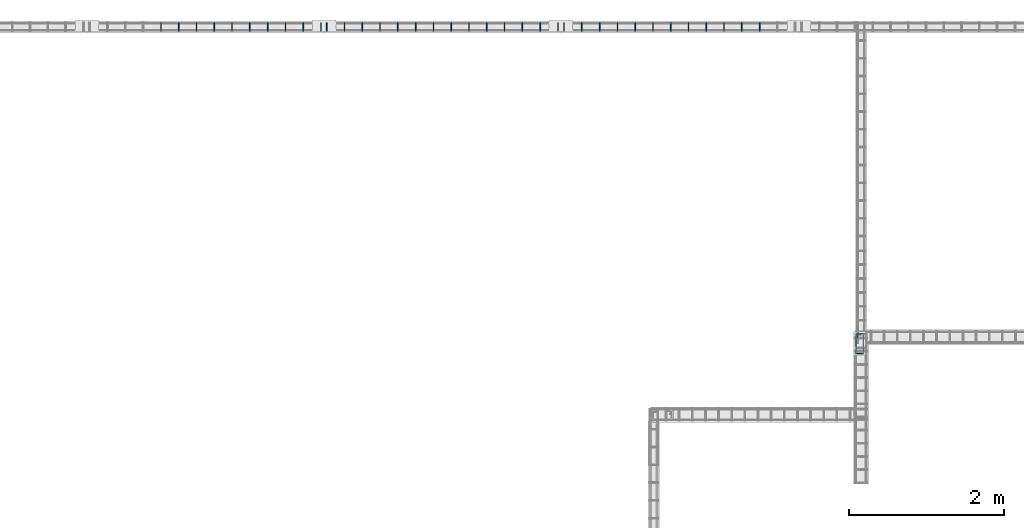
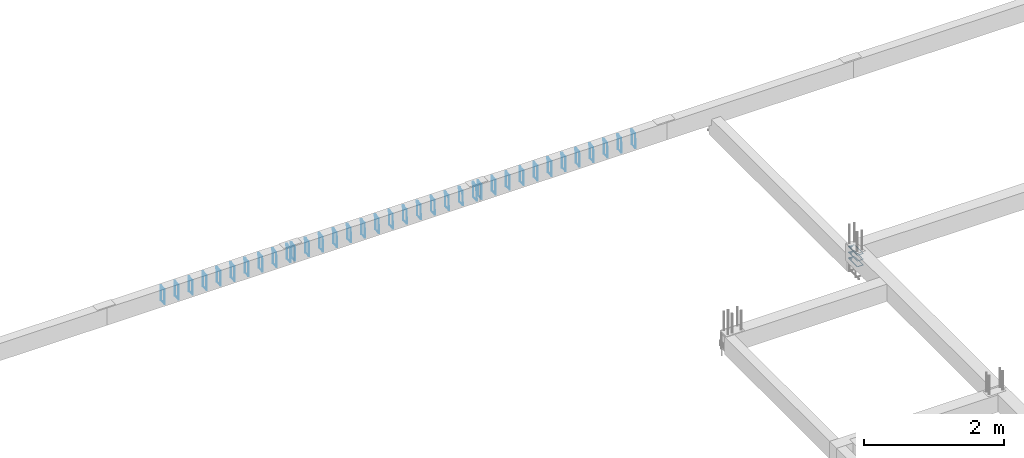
# One storey, part 137 of 150: 39 reinforcing bars.
"""IFC4 building model written with IfcOpenShell, lengths in centimetres."""

import ifcopenshell
import ifcopenshell.guid

model = None  # the IFC model being written
_history = None  # IfcOwnerHistory: only IFC2X3 demands one
_inside = {}  # id of a spatial element -> (the spatial element, [elements in it])
_under = {}  # id of a project, library or spatial element -> (it, [spatial elements below it])
_declared = {}  # id of a project -> (the project, [libraries it declares])
_typed = {}  # id of a type object -> (the type object, [elements of that type])
_made_of = {}  # id of a material, layer set ... -> (it, [elements and type objects made of it])


def new_model(schema):
    """Start an empty IFC model of exactly this schema.

    Asked for "IFC4X3", IfcOpenShell would pick the latest addendum, in which some entities
    have other attributes; the version numbers below select the first issue.
    IFC2X3 requires an IfcOwnerHistory on every rooted entity: one is made here for all.
    """
    global model, _history
    if schema == "IFC4X3":
        model = ifcopenshell.file(schema_version=(4, 3, 0, 0))
    else:
        model = ifcopenshell.file(schema=schema)
    _inside.clear()
    _under.clear()
    _declared.clear()
    _typed.clear()
    _made_of.clear()
    _history = None
    if model.schema == "IFC2X3":
        org = make("IfcOrganization", Name="unknown")
        user = make(
            "IfcPersonAndOrganization",
            ThePerson=make("IfcPerson", FamilyName="unknown"),
            TheOrganization=org,
        )
        app = make(
            "IfcApplication",
            ApplicationDeveloper=org,
            Version="unknown",
            ApplicationFullName="unknown",
            ApplicationIdentifier="unknown",
        )
        _history = make(
            "IfcOwnerHistory",
            OwningUser=user,
            OwningApplication=app,
            ChangeAction="ADDED",
            CreationDate=0,
        )
    return model


def make(cls, **values):
    """One entity of the class cls with the attributes given. An attribute that is None is left unset."""
    return model.create_entity(
        cls, **{name: value for name, value in values.items() if value is not None}
    )


def entity(cls, *values):
    """Any entity or typed value of the class cls, its attributes in the order of the schema. None: left unset."""
    e = model.create_entity(cls)
    for i, value in enumerate(values):
        if value is not None:
            e[i] = value
    return e


def rooted(cls, **values):
    """An entity with a GlobalId (a new one), such as an element, a storey or a relation."""
    return make(cls, GlobalId=ifcopenshell.guid.new(), OwnerHistory=_history, **values)


def si_unit(unit_type, name, prefix=None):
    """IfcSIUnit, for example si_unit("LENGTHUNIT", "METRE", prefix="MILLI")."""
    return make("IfcSIUnit", UnitType=unit_type, Prefix=prefix, Name=name)


def derived_unit(unit_type, elements):
    """IfcDerivedUnit: a product of units, each with its exponent."""
    return make(
        "IfcDerivedUnit",
        Elements=[
            make("IfcDerivedUnitElement", Unit=unit, Exponent=power)
            for unit, power in elements
        ],
        UnitType=unit_type,
    )


def assignment(units):
    """IfcUnitAssignment: the units of a project."""
    return None if units is None else make("IfcUnitAssignment", Units=units)


def point(xyz):
    """IfcCartesianPoint."""
    return None if xyz is None else make("IfcCartesianPoint", Coordinates=xyz)


def direction(xyz):
    """IfcDirection."""
    return None if xyz is None else make("IfcDirection", DirectionRatios=xyz)


def frame(location, z_axis=None, x_axis=None):
    """IfcAxis2Placement3D, a coordinate frame: its origin and axes. An axis left out is left unset."""
    return make(
        "IfcAxis2Placement3D",
        Location=point(location),
        Axis=direction(z_axis),
        RefDirection=direction(x_axis),
    )


def origin_with_axes():
    """The frame at (0, 0, 0) with the z axis (0, 0, 1) and the x axis (1, 0, 0) written out."""
    return frame((0.0, 0.0, 0.0), z_axis=(0.0, 0.0, 1.0), x_axis=(1.0, 0.0, 0.0))


def place(relative_to, where):
    """IfcLocalPlacement: puts the frame where relative to a parent placement (None: the world)."""
    return make(
        "IfcLocalPlacement", PlacementRelTo=relative_to, RelativePlacement=where
    )


def context(
    kind, dimensions, precision=None, world=None, true_north=None, identifier=None
):
    """IfcGeometricRepresentationContext, for example the 3D "Model" context."""
    return make(
        "IfcGeometricRepresentationContext",
        ContextIdentifier=identifier,
        ContextType=kind,
        CoordinateSpaceDimension=dimensions,
        Precision=precision,
        WorldCoordinateSystem=world,
        TrueNorth=true_north,
    )


def project(units=None, contexts=None):
    """IfcProject with its units and contexts."""
    return rooted(
        "IfcProject",
        Name="project",
        RepresentationContexts=contexts,
        UnitsInContext=assignment(units),
    )


def spatial(cls, under=None, at=None, **own):
    """A site, building, storey or space (cls), placed at a placement, below another one or the project."""
    s = rooted(cls, ObjectPlacement=at, **own)
    if under is not None:
        _under.setdefault(under.id(), (under, []))[1].append(s)
    return s


def shape(context_of_items, identifier, shape_type, items):
    """IfcShapeRepresentation: the items that make up one representation, for example the "Body"."""
    return make(
        "IfcShapeRepresentation",
        ContextOfItems=context_of_items,
        RepresentationIdentifier=identifier,
        RepresentationType=shape_type,
        Items=items,
    )


def source(mapping_origin, context_of_items, identifier, shape_type, items):
    """IfcRepresentationMap: a shape defined once, which mapped items show again and again."""
    return make(
        "IfcRepresentationMap",
        MappingOrigin=mapping_origin,
        MappedRepresentation=shape(context_of_items, identifier, shape_type, items),
    )


def transform(
    local_origin,
    x_axis=None,
    y_axis=None,
    z_axis=None,
    scale=None,
    scale2=None,
    scale3=None,
    uniform=True,
):
    """IfcCartesianTransformationOperator3D, or its non-uniform kind. x_axis, y_axis, z_axis: its Axis1, 2, 3."""
    if uniform:
        return make(
            "IfcCartesianTransformationOperator3D",
            Axis1=direction(x_axis),
            Axis2=direction(y_axis),
            LocalOrigin=point(local_origin),
            Scale=scale,
            Axis3=direction(z_axis),
        )
    return make(
        "IfcCartesianTransformationOperator3DnonUniform",
        Axis1=direction(x_axis),
        Axis2=direction(y_axis),
        LocalOrigin=point(local_origin),
        Scale=scale,
        Axis3=direction(z_axis),
        Scale2=scale2,
        Scale3=scale3,
    )


def mapped(mapping_source, mapping_target):
    """IfcMappedItem: shows the shape of a source again, moved by a transform."""
    return make(
        "IfcMappedItem", MappingSource=mapping_source, MappingTarget=mapping_target
    )


def made_of(thing, what):
    """Note that an element or type object is made of a material, layer set ...; save() writes the relation."""
    if what is not None:
        _made_of.setdefault(what.id(), (what, []))[1].append(thing)
    return thing


def element(
    cls,
    number,
    at=None,
    inside=None,
    cuts=None,
    type_object=None,
    material=None,
    context=None,
    identifier="Body",
    shape_type=None,
    held_by="IfcProductDefinitionShape",
    body=None,
    shapes=None,
    **own,
):
    """One element of the class cls, such as IfcWall. Its Tag is "e" and its number.

    at: its placement. inside: the storey or other place that contains it. cuts: it is an
    opening in that element (IfcRelVoidsElement). A single representation is given by context,
    identifier, shape_type and body (its items); several are given by shapes. held_by: the class
    of the entity that holds the representations. save() writes the other relations.
    """
    e = rooted(cls, Tag="e%d" % number, ObjectPlacement=at, **own)
    if body is not None:
        shapes = [shape(context, identifier, shape_type, body)]
    if shapes is not None:
        e.Representation = make(held_by, Representations=shapes)
    if inside is not None:
        _inside.setdefault(inside.id(), (inside, []))[1].append(e)
    if cuts is not None:
        rooted(
            "IfcRelVoidsElement", RelatingBuildingElement=cuts, RelatedOpeningElement=e
        )
    if type_object is not None:
        _typed.setdefault(type_object.id(), (type_object, []))[1].append(e)
    return made_of(e, material)


def aggregate(whole, parts):
    """IfcRelAggregates: a whole, such as a stair, and the parts it consists of."""
    return rooted("IfcRelAggregates", RelatingObject=whole, RelatedObjects=parts)


def save(model, path):
    """Write the relations noted so far, then the file.

    IfcRelAggregates (storeys below a building ...), IfcRelContainedInSpatialStructure (elements
    in a storey), IfcRelDefinesByType, IfcRelAssociatesMaterial and IfcRelDeclares: one each for
    every whole, place, type object, material and project.
    """
    for whole, parts in _under.values():
        aggregate(whole, parts)
    for where, things in _inside.values():
        rooted(
            "IfcRelContainedInSpatialStructure",
            RelatedElements=things,
            RelatingStructure=where,
        )
    for kind, things in _typed.values():
        rooted("IfcRelDefinesByType", RelatedObjects=things, RelatingType=kind)
    for what, things in _made_of.values():
        rooted("IfcRelAssociatesMaterial", RelatedObjects=things, RelatingMaterial=what)
    for by, libraries in _declared.values():
        rooted("IfcRelDeclares", RelatingContext=by, RelatedDefinitions=libraries)
    model.write(path)


model = new_model("IFC4")

# Units and contexts
model_context = context("Model", 3, precision=1e-05, world=origin_with_axes(), identifier="Body")
ifc_project = project(units=[si_unit("LENGTHUNIT", "METRE", prefix="CENTI"), si_unit("VOLUMEUNIT", "CUBIC_METRE"), si_unit("AREAUNIT", "SQUARE_METRE"), si_unit("POWERUNIT", "WATT"), si_unit("LUMINOUSFLUXUNIT", "LUMEN"), si_unit("ELECTRICCURRENTUNIT", "AMPERE"), si_unit("PRESSUREUNIT", "PASCAL", prefix="KILO"), si_unit("MASSUNIT", "GRAM", prefix="KILO"), si_unit("PLANEANGLEUNIT", "RADIAN"), derived_unit("VOLUMETRICFLOWRATEUNIT", [(si_unit("LENGTHUNIT", "METRE"), 3), (si_unit("TIMEUNIT", "SECOND"), -1)])], contexts=[model_context])

# Site, building, storey
site_placement = place(None, frame((-4000.0, 0.0, 0.0), z_axis=(0.0, 0.0, 1.0), x_axis=(1.0, 0.0, 0.0)))
site = spatial("IfcSite", under=ifc_project, at=site_placement, Name="PADRÃO")
building_placement = place(site_placement, frame((0.0, 0.0, -14.0)))
building = spatial("IfcBuilding", under=site, at=building_placement, Name="CRECHE PRÉ-ESCOLA TIPO 2")
placement = place(building_placement, origin_with_axes())
storey_placement = place(placement, frame((0.0, 0.0, 30.0), z_axis=(0.0, 0.0, 1.0), x_axis=(1.0, 0.0, 0.0)))
storey = spatial("IfcBuildingStorey", under=building, at=storey_placement, Name="VIGA BALDRAME", CompositionType="ELEMENT", Elevation=16.0)

# Reinforcing bars
shared_shape_1 = source(origin_with_axes(), model_context, "Body", "AdvancedSweptSolid", [
    entity("IfcSweptDiskSolid", entity("IfcCompositeCurve", [entity("IfcCompositeCurveSegment", "CONTINUOUS", True, entity("IfcPolyline", [entity("IfcCartesianPoint", [4.25, 21.75, 0.0]), entity("IfcCartesianPoint", [4.25, 27.75, 0.0])])), entity("IfcCompositeCurveSegment", "CONTINUOUS", True, entity("IfcPolyline", [entity("IfcCartesianPoint", [4.25, 27.75, 0.0]), entity("IfcCartesianPoint", [2.25, 27.75, 0.0])])), entity("IfcCompositeCurveSegment", "CONTINUOUS", True, entity("IfcPolyline", [entity("IfcCartesianPoint", [2.25, 27.75, 0.0]), entity("IfcCartesianPoint", [2.25, 2.25, 0.0])])), entity("IfcCompositeCurveSegment", "CONTINUOUS", True, entity("IfcPolyline", [entity("IfcCartesianPoint", [2.25, 2.25, 0.0]), entity("IfcCartesianPoint", [11.75, 2.25, 0.0])])), entity("IfcCompositeCurveSegment", "CONTINUOUS", True, entity("IfcPolyline", [entity("IfcCartesianPoint", [11.75, 2.25, 0.0]), entity("IfcCartesianPoint", [11.75, 27.75, -0.5])])), entity("IfcCompositeCurveSegment", "CONTINUOUS", True, entity("IfcPolyline", [entity("IfcCartesianPoint", [11.75, 27.75, -0.5]), entity("IfcCartesianPoint", [2.25, 27.75, -0.5])])), entity("IfcCompositeCurveSegment", "CONTINUOUS", True, entity("IfcPolyline", [entity("IfcCartesianPoint", [2.25, 27.75, -0.5]), entity("IfcCartesianPoint", [2.25, 25.75, -0.5])])), entity("IfcCompositeCurveSegment", "CONTINUOUS", True, entity("IfcPolyline", [entity("IfcCartesianPoint", [2.25, 25.75, -0.5]), entity("IfcCartesianPoint", [8.25, 25.75, -0.5])]))], False), 0.25),
])
for number, where, z_axis, x_axis, name in (
    (1, (2515.5, 4062.02, -15.0), (0.0, 0.0, 1.0), (1.0, 0.0, 0.0), "P20 - Estribo"),
    (2, (2515.5, 4062.02, -5.0), (0.0, 0.0, 1.0), (1.0, 0.0, 0.0), "P20 - Estribo"),
    (3, (2515.5, 4062.02, -25.0), (0.0, 0.0, 1.0), (1.0, 0.0, 0.0), "P20 - Estribo"),
):
    element("IfcReinforcingBar", number, at=place(storey_placement, frame(where, z_axis=z_axis, x_axis=x_axis)), inside=storey, Name=name, BarLength=0.0, CrossSectionArea=1.9634954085e-05, NominalDiameter=0.5, PredefinedType="MAIN", context=model_context, shape_type="MappedRepresentation", body=[
        mapped(shared_shape_1, transform((0.0, 0.0, 0.0), scale=1.0)),
    ])
shared_shape_2 = source(origin_with_axes(), model_context, "Body", "AdvancedSweptSolid", [
    entity("IfcSweptDiskSolid", entity("IfcCompositeCurve", [entity("IfcCompositeCurveSegment", "CONTINUOUS", True, entity("IfcPolyline", [entity("IfcCartesianPoint", [2.0, -6.0, 0.0]), entity("IfcCartesianPoint", [2.0, 0.0, 0.0])])), entity("IfcCompositeCurveSegment", "CONTINUOUS", True, entity("IfcPolyline", [entity("IfcCartesianPoint", [2.0, 0.0, 0.0]), entity("IfcCartesianPoint", [0.0, 0.0, 0.0])])), entity("IfcCompositeCurveSegment", "CONTINUOUS", True, entity("IfcPolyline", [entity("IfcCartesianPoint", [0.0, 0.0, 0.0]), entity("IfcCartesianPoint", [0.0, -25.5, 0.0])])), entity("IfcCompositeCurveSegment", "CONTINUOUS", True, entity("IfcPolyline", [entity("IfcCartesianPoint", [0.0, -25.5, 0.0]), entity("IfcCartesianPoint", [10.5, -25.5, 0.0])])), entity("IfcCompositeCurveSegment", "CONTINUOUS", True, entity("IfcPolyline", [entity("IfcCartesianPoint", [10.5, -25.5, 0.0]), entity("IfcCartesianPoint", [10.5, 0.0, 0.5])])), entity("IfcCompositeCurveSegment", "CONTINUOUS", True, entity("IfcPolyline", [entity("IfcCartesianPoint", [10.5, 0.0, 0.5]), entity("IfcCartesianPoint", [0.0, 0.0, 0.5])])), entity("IfcCompositeCurveSegment", "CONTINUOUS", True, entity("IfcPolyline", [entity("IfcCartesianPoint", [0.0, 0.0, 0.5]), entity("IfcCartesianPoint", [0.0, -2.0, 0.5])])), entity("IfcCompositeCurveSegment", "CONTINUOUS", True, entity("IfcPolyline", [entity("IfcCartesianPoint", [0.0, -2.0, 0.5]), entity("IfcCartesianPoint", [6.0, -2.0, 0.5])]))], False), 0.25),
])
for number, where, z_axis, x_axis, name in (
    (4, (1619.0, 4491.75, -2.25), (-1.0, 0.0, 0.0), (0.0, -1.0, 0.0), "V101 - Estribo"),
    (5, (1642.0, 4491.75, -2.25), (-1.0, 0.0, 0.0), (0.0, -1.0, 0.0), "V101 - Estribo"),
    (6, (1665.0, 4491.75, -2.25), (-1.0, 0.0, 0.0), (0.0, -1.0, 0.0), "V101 - Estribo"),
    (7, (1688.0, 4491.75, -2.25), (-1.0, 0.0, 0.0), (0.0, -1.0, 0.0), "V101 - Estribo"),
    (8, (1711.0, 4491.75, -2.25), (-1.0, 0.0, 0.0), (0.0, -1.0, 0.0), "V101 - Estribo"),
    (9, (1734.0, 4491.75, -2.25), (-1.0, 0.0, 0.0), (0.0, -1.0, 0.0), "V101 - Estribo"),
    (10, (1757.0, 4491.75, -2.25), (-1.0, 0.0, 0.0), (0.0, -1.0, 0.0), "V101 - Estribo"),
    (11, (1780.0, 4491.75, -2.25), (-1.0, 0.0, 0.0), (0.0, -1.0, 0.0), "V101 - Estribo"),
    (12, (1803.0, 4491.75, -2.25), (-1.0, 0.0, 0.0), (0.0, -1.0, 0.0), "V101 - Estribo"),
    (13, (1826.0, 4491.75, -2.25), (-1.0, 0.0, 0.0), (0.0, -1.0, 0.0), "V101 - Estribo"),
):
    element("IfcReinforcingBar", number, at=place(storey_placement, frame(where, z_axis=z_axis, x_axis=x_axis)), inside=storey, Name=name, BarLength=0.0, CrossSectionArea=1.9634954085e-05, NominalDiameter=0.5, PredefinedType="MAIN", context=model_context, shape_type="MappedRepresentation", body=[
        mapped(shared_shape_2, transform((0.0, 0.0, 0.0), scale=1.0)),
    ])
shared_shape_3 = source(origin_with_axes(), model_context, "Body", "AdvancedSweptSolid", [
    entity("IfcSweptDiskSolid", entity("IfcCompositeCurve", [entity("IfcCompositeCurveSegment", "CONTINUOUS", True, entity("IfcPolyline", [entity("IfcCartesianPoint", [2.0, -6.0, 0.0]), entity("IfcCartesianPoint", [2.0, 0.0, 0.0])])), entity("IfcCompositeCurveSegment", "CONTINUOUS", True, entity("IfcPolyline", [entity("IfcCartesianPoint", [2.0, 0.0, 0.0]), entity("IfcCartesianPoint", [0.0, 0.0, 0.0])])), entity("IfcCompositeCurveSegment", "CONTINUOUS", True, entity("IfcPolyline", [entity("IfcCartesianPoint", [0.0, 0.0, 0.0]), entity("IfcCartesianPoint", [0.0, -25.5, 0.0])])), entity("IfcCompositeCurveSegment", "CONTINUOUS", True, entity("IfcPolyline", [entity("IfcCartesianPoint", [0.0, -25.5, 0.0]), entity("IfcCartesianPoint", [10.5, -25.5, 0.0])])), entity("IfcCompositeCurveSegment", "CONTINUOUS", True, entity("IfcPolyline", [entity("IfcCartesianPoint", [10.5, -25.5, 0.0]), entity("IfcCartesianPoint", [10.5, 0.0, 0.5])])), entity("IfcCompositeCurveSegment", "CONTINUOUS", True, entity("IfcPolyline", [entity("IfcCartesianPoint", [10.5, 0.0, 0.5]), entity("IfcCartesianPoint", [0.0, 0.0, 0.5])])), entity("IfcCompositeCurveSegment", "CONTINUOUS", True, entity("IfcPolyline", [entity("IfcCartesianPoint", [0.0, 0.0, 0.5]), entity("IfcCartesianPoint", [0.0, -2.0, 0.5])])), entity("IfcCompositeCurveSegment", "CONTINUOUS", True, entity("IfcPolyline", [entity("IfcCartesianPoint", [0.0, -2.0, 0.5]), entity("IfcCartesianPoint", [6.0, -2.0, 0.5])]))], False), 0.25),
])
for number, where, z_axis, x_axis, name in (
    (14, (2132.495, 4491.75, -2.25), (-1.0, 0.0, 0.0), (0.0, -1.0, 0.0), "V101 - Estribo"),
    (15, (2109.495, 4491.75, -2.25), (-1.0, 0.0, 0.0), (0.0, -1.0, 0.0), "V101 - Estribo"),
    (16, (1833.495, 4491.75, -2.25), (-1.0, 0.0, 0.0), (0.0, -1.0, 0.0), "V101 - Estribo"),
    (17, (1856.495, 4491.75, -2.25), (-1.0, 0.0, 0.0), (0.0, -1.0, 0.0), "V101 - Estribo"),
    (18, (1879.495, 4491.75, -2.25), (-1.0, 0.0, 0.0), (0.0, -1.0, 0.0), "V101 - Estribo"),
    (19, (1902.495, 4491.75, -2.25), (-1.0, 0.0, 0.0), (0.0, -1.0, 0.0), "V101 - Estribo"),
    (20, (1925.495, 4491.75, -2.25), (-1.0, 0.0, 0.0), (0.0, -1.0, 0.0), "V101 - Estribo"),
    (21, (1948.495, 4491.75, -2.25), (-1.0, 0.0, 0.0), (0.0, -1.0, 0.0), "V101 - Estribo"),
    (22, (1971.495, 4491.75, -2.25), (-1.0, 0.0, 0.0), (0.0, -1.0, 0.0), "V101 - Estribo"),
    (23, (1994.495, 4491.75, -2.25), (-1.0, 0.0, 0.0), (0.0, -1.0, 0.0), "V101 - Estribo"),
    (24, (2017.495, 4491.75, -2.25), (-1.0, 0.0, 0.0), (0.0, -1.0, 0.0), "V101 - Estribo"),
    (25, (2040.495, 4491.75, -2.25), (-1.0, 0.0, 0.0), (0.0, -1.0, 0.0), "V101 - Estribo"),
    (26, (2063.495, 4491.75, -2.25), (-1.0, 0.0, 0.0), (0.0, -1.0, 0.0), "V101 - Estribo"),
    (27, (2086.495, 4491.75, -2.25), (-1.0, 0.0, 0.0), (0.0, -1.0, 0.0), "V101 - Estribo"),
):
    element("IfcReinforcingBar", number, at=place(storey_placement, frame(where, z_axis=z_axis, x_axis=x_axis)), inside=storey, Name=name, BarLength=0.0, CrossSectionArea=1.9634954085e-05, NominalDiameter=0.5, PredefinedType="MAIN", context=model_context, shape_type="MappedRepresentation", body=[
        mapped(shared_shape_3, transform((0.0, 0.0, 0.0), scale=1.0)),
    ])
shared_shape_4 = source(origin_with_axes(), model_context, "Body", "AdvancedSweptSolid", [
    entity("IfcSweptDiskSolid", entity("IfcCompositeCurve", [entity("IfcCompositeCurveSegment", "CONTINUOUS", True, entity("IfcPolyline", [entity("IfcCartesianPoint", [2.0, -6.0, 0.0]), entity("IfcCartesianPoint", [2.0, 0.0, 0.0])])), entity("IfcCompositeCurveSegment", "CONTINUOUS", True, entity("IfcPolyline", [entity("IfcCartesianPoint", [2.0, 0.0, 0.0]), entity("IfcCartesianPoint", [0.0, 0.0, 0.0])])), entity("IfcCompositeCurveSegment", "CONTINUOUS", True, entity("IfcPolyline", [entity("IfcCartesianPoint", [0.0, 0.0, 0.0]), entity("IfcCartesianPoint", [0.0, -25.5, 0.0])])), entity("IfcCompositeCurveSegment", "CONTINUOUS", True, entity("IfcPolyline", [entity("IfcCartesianPoint", [0.0, -25.5, 0.0]), entity("IfcCartesianPoint", [10.5, -25.5, 0.0])])), entity("IfcCompositeCurveSegment", "CONTINUOUS", True, entity("IfcPolyline", [entity("IfcCartesianPoint", [10.5, -25.5, 0.0]), entity("IfcCartesianPoint", [10.5, 0.0, 0.5])])), entity("IfcCompositeCurveSegment", "CONTINUOUS", True, entity("IfcPolyline", [entity("IfcCartesianPoint", [10.5, 0.0, 0.5]), entity("IfcCartesianPoint", [0.0, 0.0, 0.5])])), entity("IfcCompositeCurveSegment", "CONTINUOUS", True, entity("IfcPolyline", [entity("IfcCartesianPoint", [0.0, 0.0, 0.5]), entity("IfcCartesianPoint", [0.0, -2.0, 0.5])])), entity("IfcCompositeCurveSegment", "CONTINUOUS", True, entity("IfcPolyline", [entity("IfcCartesianPoint", [0.0, -2.0, 0.5]), entity("IfcCartesianPoint", [6.0, -2.0, 0.5])]))], False), 0.25),
])
for number, where, z_axis, x_axis, name in (
    (28, (2140.495, 4491.75, -2.25), (-1.0, 0.0, 0.0), (0.0, -1.0, 0.0), "V101 - Estribo"),
    (29, (2393.495, 4491.75, -2.25), (-1.0, 0.0, 0.0), (0.0, -1.0, 0.0), "V101 - Estribo"),
    (30, (2370.495, 4491.75, -2.25), (-1.0, 0.0, 0.0), (0.0, -1.0, 0.0), "V101 - Estribo"),
    (31, (2347.495, 4491.75, -2.25), (-1.0, 0.0, 0.0), (0.0, -1.0, 0.0), "V101 - Estribo"),
    (32, (2324.495, 4491.75, -2.25), (-1.0, 0.0, 0.0), (0.0, -1.0, 0.0), "V101 - Estribo"),
    (33, (2301.495, 4491.75, -2.25), (-1.0, 0.0, 0.0), (0.0, -1.0, 0.0), "V101 - Estribo"),
    (34, (2278.495, 4491.75, -2.25), (-1.0, 0.0, 0.0), (0.0, -1.0, 0.0), "V101 - Estribo"),
    (35, (2255.495, 4491.75, -2.25), (-1.0, 0.0, 0.0), (0.0, -1.0, 0.0), "V101 - Estribo"),
    (36, (2232.495, 4491.75, -2.25), (-1.0, 0.0, 0.0), (0.0, -1.0, 0.0), "V101 - Estribo"),
    (37, (2209.495, 4491.75, -2.25), (-1.0, 0.0, 0.0), (0.0, -1.0, 0.0), "V101 - Estribo"),
    (38, (2186.495, 4491.75, -2.25), (-1.0, 0.0, 0.0), (0.0, -1.0, 0.0), "V101 - Estribo"),
    (39, (2163.495, 4491.75, -2.25), (-1.0, 0.0, 0.0), (0.0, -1.0, 0.0), "V101 - Estribo"),
):
    element("IfcReinforcingBar", number, at=place(storey_placement, frame(where, z_axis=z_axis, x_axis=x_axis)), inside=storey, Name=name, BarLength=0.0, CrossSectionArea=1.9634954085e-05, NominalDiameter=0.5, PredefinedType="MAIN", context=model_context, shape_type="MappedRepresentation", body=[
        mapped(shared_shape_4, transform((0.0, 0.0, 0.0), scale=1.0)),
    ])

save(model, "model.ifc")
